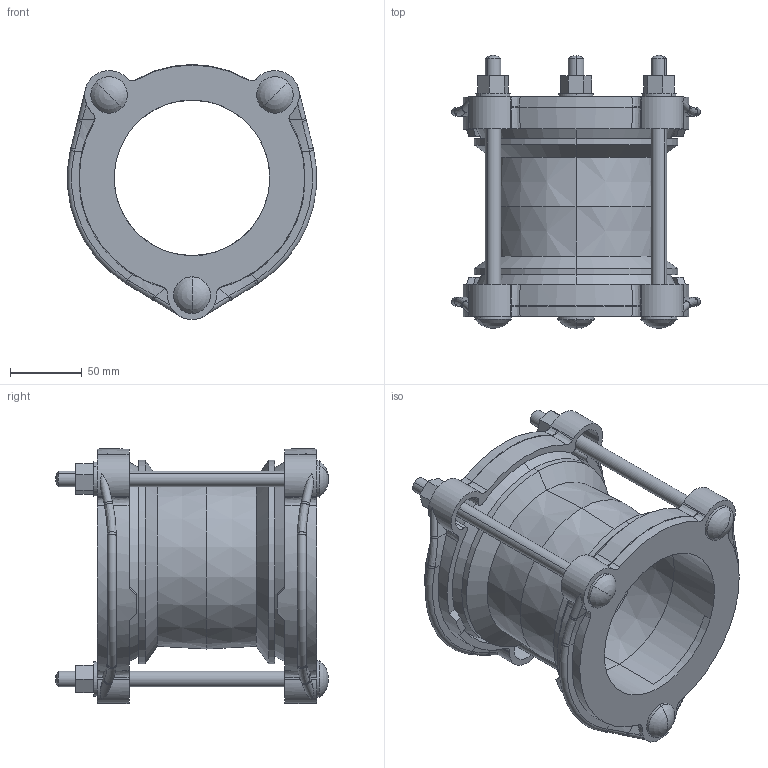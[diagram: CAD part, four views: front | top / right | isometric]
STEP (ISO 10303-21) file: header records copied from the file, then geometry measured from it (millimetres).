
FILE_DESCRIPTION((''),'2;1');
FILE_NAME('BIM_12393_ALT_GEN_46','2018-09-18T',('MReader'),(''),'CREO PARAMETRIC BY PTC INC, 2016130','CREO PARAMETRIC BY PTC INC, 2016130','');
FILE_SCHEMA(('CONFIG_CONTROL_DESIGN'));
Length unit declared in the file: millimetre
Products named in the file (1): BIM_12393_ALT_GEN_46
Bounding box: 173.6 x 190.33 x 177.77 mm (x, y, z)
Volume: 867000.1 mm3; surface area: 241244.5 mm2
Topology: 1 solids, 1 shells, 370 faces, 984 edges, 618 vertices
Faces by surface type: plane 124, cone 72, cylinder 68, bspline 64, torus 30, sphere 12
Entity records: 14100 total; most frequent: CARTESIAN_POINT 5368, ORIENTED_EDGE 1944, DIRECTION 1702, EDGE_CURVE 972, AXIS2_PLACEMENT_3D 684, VERTEX_POINT 618, EDGE_LOOP 392, CIRCLE 378
